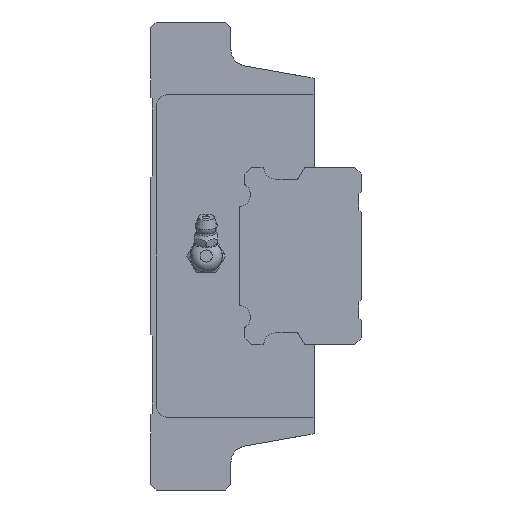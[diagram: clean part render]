
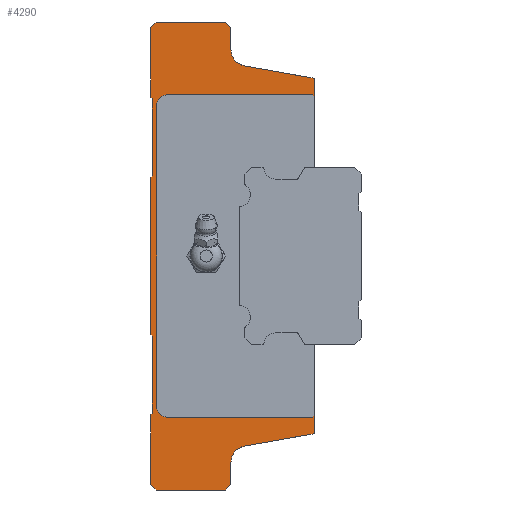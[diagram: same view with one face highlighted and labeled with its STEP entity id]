
A CAD part, left-side view. The second image highlights one B-rep face of the part: STEP entity #4290.
In plain terms, the highlighted planar face has unit normal (-1, 0, 0).
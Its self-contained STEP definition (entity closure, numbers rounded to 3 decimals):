
#200=CIRCLE('',#4608,4.);
#203=CIRCLE('',#4623,5.);
#221=CIRCLE('',#4650,5.);
#222=CIRCLE('',#4653,4.);
#264=CIRCLE('',#4722,3.);
#265=CIRCLE('',#4723,3.);
#1101=ORIENTED_EDGE('',*,*,#2045,.F.);
#1102=ORIENTED_EDGE('',*,*,#1880,.F.);
#1103=ORIENTED_EDGE('',*,*,#1876,.F.);
#1104=ORIENTED_EDGE('',*,*,#1988,.F.);
#1105=ORIENTED_EDGE('',*,*,#1873,.T.);
#1106=ORIENTED_EDGE('',*,*,#1792,.F.);
#1107=ORIENTED_EDGE('',*,*,#1789,.F.);
#1108=ORIENTED_EDGE('',*,*,#1979,.F.);
#1109=ORIENTED_EDGE('',*,*,#1967,.F.);
#1110=ORIENTED_EDGE('',*,*,#2036,.F.);
#1111=ORIENTED_EDGE('',*,*,#2033,.F.);
#1112=ORIENTED_EDGE('',*,*,#2030,.F.);
#1113=ORIENTED_EDGE('',*,*,#2027,.F.);
#1114=ORIENTED_EDGE('',*,*,#2024,.F.);
#1115=ORIENTED_EDGE('',*,*,#2021,.F.);
#1116=ORIENTED_EDGE('',*,*,#2018,.F.);
#1117=ORIENTED_EDGE('',*,*,#2015,.F.);
#1118=ORIENTED_EDGE('',*,*,#2012,.F.);
#1119=ORIENTED_EDGE('',*,*,#2009,.F.);
#1120=ORIENTED_EDGE('',*,*,#2002,.F.);
#1121=ORIENTED_EDGE('',*,*,#1768,.F.);
#1122=ORIENTED_EDGE('',*,*,#1765,.F.);
#1123=ORIENTED_EDGE('',*,*,#1848,.T.);
#1124=ORIENTED_EDGE('',*,*,#1838,.F.);
#1125=ORIENTED_EDGE('',*,*,#1823,.F.);
#1126=ORIENTED_EDGE('',*,*,#1896,.F.);
#1127=ORIENTED_EDGE('',*,*,#2046,.F.);
#1128=ORIENTED_EDGE('',*,*,#2047,.F.);
#1129=ORIENTED_EDGE('',*,*,#2048,.F.);
#1130=ORIENTED_EDGE('',*,*,#2049,.F.);
#1131=ORIENTED_EDGE('',*,*,#2050,.F.);
#1132=ORIENTED_EDGE('',*,*,#2051,.F.);
#1765=EDGE_CURVE('',#2325,#2323,#2730,.T.);
#1768=EDGE_CURVE('',#2323,#2327,#2733,.T.);
#1789=EDGE_CURVE('',#2347,#2345,#2746,.T.);
#1792=EDGE_CURVE('',#2345,#2349,#2749,.T.);
#1823=EDGE_CURVE('',#2367,#2368,#200,.T.);
#1838=EDGE_CURVE('',#2368,#2382,#2771,.T.);
#1848=EDGE_CURVE('',#2325,#2382,#203,.T.);
#1873=EDGE_CURVE('',#2407,#2349,#221,.T.);
#1876=EDGE_CURVE('',#2408,#2409,#222,.T.);
#1880=EDGE_CURVE('',#2409,#2412,#2780,.T.);
#1896=EDGE_CURVE('',#2423,#2367,#2793,.T.);
#1967=EDGE_CURVE('',#2490,#2491,#2830,.T.);
#1979=EDGE_CURVE('',#2491,#2347,#2842,.T.);
#1988=EDGE_CURVE('',#2407,#2408,#2851,.T.);
#2002=EDGE_CURVE('',#2327,#2512,#2864,.T.);
#2009=EDGE_CURVE('',#2512,#2516,#2871,.T.);
#2012=EDGE_CURVE('',#2516,#2518,#2874,.T.);
#2015=EDGE_CURVE('',#2518,#2520,#2877,.T.);
#2018=EDGE_CURVE('',#2520,#2522,#2880,.T.);
#2021=EDGE_CURVE('',#2522,#2524,#2883,.T.);
#2024=EDGE_CURVE('',#2524,#2526,#2886,.T.);
#2027=EDGE_CURVE('',#2526,#2528,#2889,.T.);
#2030=EDGE_CURVE('',#2528,#2530,#2892,.T.);
#2033=EDGE_CURVE('',#2530,#2532,#2895,.T.);
#2036=EDGE_CURVE('',#2532,#2490,#2898,.T.);
#2045=EDGE_CURVE('',#2412,#2540,#2905,.T.);
#2046=EDGE_CURVE('',#2541,#2423,#2906,.T.);
#2047=EDGE_CURVE('',#2542,#2541,#2907,.T.);
#2048=EDGE_CURVE('',#2543,#2542,#264,.F.);
#2049=EDGE_CURVE('',#2544,#2543,#2908,.T.);
#2050=EDGE_CURVE('',#2545,#2544,#265,.F.);
#2051=EDGE_CURVE('',#2540,#2545,#2909,.T.);
#2323=VERTEX_POINT('',#6522);
#2325=VERTEX_POINT('',#6526);
#2327=VERTEX_POINT('',#6531);
#2345=VERTEX_POINT('',#6585);
#2347=VERTEX_POINT('',#6589);
#2349=VERTEX_POINT('',#6594);
#2367=VERTEX_POINT('',#6669);
#2368=VERTEX_POINT('',#6671);
#2382=VERTEX_POINT('',#6719);
#2407=VERTEX_POINT('',#6809);
#2408=VERTEX_POINT('',#6814);
#2409=VERTEX_POINT('',#6816);
#2412=VERTEX_POINT('',#6825);
#2423=VERTEX_POINT('',#6852);
#2490=VERTEX_POINT('',#6994);
#2491=VERTEX_POINT('',#6995);
#2512=VERTEX_POINT('',#7059);
#2516=VERTEX_POINT('',#7071);
#2518=VERTEX_POINT('',#7077);
#2520=VERTEX_POINT('',#7083);
#2522=VERTEX_POINT('',#7089);
#2524=VERTEX_POINT('',#7095);
#2526=VERTEX_POINT('',#7101);
#2528=VERTEX_POINT('',#7107);
#2530=VERTEX_POINT('',#7113);
#2532=VERTEX_POINT('',#7119);
#2540=VERTEX_POINT('',#7142);
#2541=VERTEX_POINT('',#7144);
#2542=VERTEX_POINT('',#7146);
#2543=VERTEX_POINT('',#7148);
#2544=VERTEX_POINT('',#7150);
#2545=VERTEX_POINT('',#7152);
#2730=LINE('',#6527,#3090);
#2733=LINE('',#6533,#3093);
#2746=LINE('',#6590,#3106);
#2749=LINE('',#6596,#3109);
#2771=LINE('',#6718,#3131);
#2780=LINE('',#6824,#3140);
#2793=LINE('',#6853,#3153);
#2830=LINE('',#6993,#3190);
#2842=LINE('',#7016,#3202);
#2851=LINE('',#7032,#3211);
#2864=LINE('',#7058,#3224);
#2871=LINE('',#7070,#3231);
#2874=LINE('',#7076,#3234);
#2877=LINE('',#7082,#3237);
#2880=LINE('',#7088,#3240);
#2883=LINE('',#7094,#3243);
#2886=LINE('',#7100,#3246);
#2889=LINE('',#7106,#3249);
#2892=LINE('',#7112,#3252);
#2895=LINE('',#7118,#3255);
#2898=LINE('',#7124,#3258);
#2905=LINE('',#7141,#3265);
#2906=LINE('',#7143,#3266);
#2907=LINE('',#7145,#3267);
#2908=LINE('',#7149,#3268);
#2909=LINE('',#7153,#3269);
#3090=VECTOR('',#5262,1000.);
#3093=VECTOR('',#5267,1000.);
#3106=VECTOR('',#5296,1000.);
#3109=VECTOR('',#5301,1000.);
#3131=VECTOR('',#5379,1000.);
#3140=VECTOR('',#5474,1000.);
#3153=VECTOR('',#5495,1000.);
#3190=VECTOR('',#5606,1000.);
#3202=VECTOR('',#5620,1000.);
#3211=VECTOR('',#5635,1000.);
#3224=VECTOR('',#5658,1000.);
#3231=VECTOR('',#5667,1000.);
#3234=VECTOR('',#5672,1000.);
#3237=VECTOR('',#5677,1000.);
#3240=VECTOR('',#5682,1000.);
#3243=VECTOR('',#5687,1000.);
#3246=VECTOR('',#5692,1000.);
#3249=VECTOR('',#5697,1000.);
#3252=VECTOR('',#5702,1000.);
#3255=VECTOR('',#5707,1000.);
#3258=VECTOR('',#5712,1000.);
#3265=VECTOR('',#5727,1000.);
#3266=VECTOR('',#5728,1000.);
#3267=VECTOR('',#5729,1000.);
#3268=VECTOR('',#5732,1000.);
#3269=VECTOR('',#5735,1000.);
#3515=EDGE_LOOP('',(#1101,#1102,#1103,#1104,#1105,#1106,#1107,#1108,#1109,
#1110,#1111,#1112,#1113,#1114,#1115,#1116,#1117,#1118,#1119,#1120,#1121,
#1122,#1123,#1124,#1125,#1126,#1127,#1128,#1129,#1130,#1131,#1132));
#3856=FACE_BOUND('',#3515,.T.);
#4097=PLANE('',#4721);
#4290=ADVANCED_FACE('',(#3856),#4097,.F.);
#4608=AXIS2_PLACEMENT_3D('',#6670,#5358,#5359);
#4623=AXIS2_PLACEMENT_3D('',#6740,#5399,#5400);
#4650=AXIS2_PLACEMENT_3D('',#6808,#5455,#5456);
#4653=AXIS2_PLACEMENT_3D('',#6815,#5463,#5464);
#4721=AXIS2_PLACEMENT_3D('',#7140,#5725,#5726);
#4722=AXIS2_PLACEMENT_3D('',#7147,#5730,#5731);
#4723=AXIS2_PLACEMENT_3D('',#7151,#5733,#5734);
#5262=DIRECTION('',(0.,0.,-1.));
#5267=DIRECTION('',(0.,0.707,-0.707));
#5296=DIRECTION('',(0.,-0.707,-0.707));
#5301=DIRECTION('',(0.,0.,-1.));
#5358=DIRECTION('',(1.,0.,0.));
#5359=DIRECTION('',(0.,0.,-1.));
#5379=DIRECTION('',(0.,0.984,-0.176));
#5399=DIRECTION('',(1.,0.,0.));
#5400=DIRECTION('',(0.,0.,-1.));
#5455=DIRECTION('',(1.,0.,0.));
#5456=DIRECTION('',(0.,0.,-1.));
#5463=DIRECTION('',(1.,0.,0.));
#5464=DIRECTION('',(0.,0.,-1.));
#5474=DIRECTION('',(0.,0.,-1.));
#5495=DIRECTION('',(0.,0.,-1.));
#5606=DIRECTION('',(0.,-0.707,0.707));
#5620=DIRECTION('',(0.,-1.,0.));
#5635=DIRECTION('',(0.,-0.984,-0.176));
#5658=DIRECTION('',(0.,1.,0.));
#5667=DIRECTION('',(0.,0.707,0.707));
#5672=DIRECTION('',(0.,0.,1.));
#5677=DIRECTION('',(0.,-0.707,0.707));
#5682=DIRECTION('',(0.,0.,1.));
#5687=DIRECTION('',(0.,0.707,0.707));
#5692=DIRECTION('',(0.,0.,1.));
#5697=DIRECTION('',(0.,-0.707,0.707));
#5702=DIRECTION('',(0.,0.,1.));
#5707=DIRECTION('',(0.,0.707,0.707));
#5712=DIRECTION('',(0.,0.,1.));
#5725=DIRECTION('',(1.,0.,0.));
#5726=DIRECTION('',(0.,0.,-1.));
#5727=DIRECTION('',(0.,0.707,0.707));
#5728=DIRECTION('',(0.,-0.707,0.707));
#5729=DIRECTION('',(0.,-1.,0.));
#5730=DIRECTION('',(1.,0.,0.));
#5731=DIRECTION('',(0.,0.,-1.));
#5732=DIRECTION('',(0.,0.,-1.));
#5733=DIRECTION('',(1.,0.,0.));
#5734=DIRECTION('',(0.,0.,-1.));
#5735=DIRECTION('',(0.,1.,0.));
#6522=CARTESIAN_POINT('',(-80.4,25.,-68.5));
#6526=CARTESIAN_POINT('',(-80.4,25.,-61.8));
#6527=CARTESIAN_POINT('',(-80.4,25.,-61.8));
#6531=CARTESIAN_POINT('',(-80.4,26.5,-70.));
#6533=CARTESIAN_POINT('',(-80.4,25.,-68.5));
#6585=CARTESIAN_POINT('',(-80.4,25.,68.5));
#6589=CARTESIAN_POINT('',(-80.4,26.5,70.));
#6590=CARTESIAN_POINT('',(-80.4,26.5,70.));
#6594=CARTESIAN_POINT('',(-80.4,25.,61.8));
#6596=CARTESIAN_POINT('',(-80.4,25.,68.5));
#6669=CARTESIAN_POINT('',(-80.4,0.,-52.972));
#6670=CARTESIAN_POINT('',(-80.4,1.8,-49.4));
#6671=CARTESIAN_POINT('',(-80.4,1.095,-53.337));
#6718=CARTESIAN_POINT('',(-80.4,1.095,-53.337));
#6719=CARTESIAN_POINT('',(-80.4,20.881,-56.878));
#6740=CARTESIAN_POINT('',(-80.4,20.,-61.8));
#6808=CARTESIAN_POINT('',(-80.4,20.,61.8));
#6809=CARTESIAN_POINT('',(-80.4,20.881,56.878));
#6814=CARTESIAN_POINT('',(-80.4,1.095,53.337));
#6815=CARTESIAN_POINT('',(-80.4,1.8,49.4));
#6816=CARTESIAN_POINT('',(-80.4,0.,52.972));
#6824=CARTESIAN_POINT('',(-80.4,0.,52.972));
#6825=CARTESIAN_POINT('',(-80.4,0.,47.7));
#6852=CARTESIAN_POINT('',(-80.4,0.,-47.7));
#6853=CARTESIAN_POINT('',(-80.4,0.,52.972));
#6993=CARTESIAN_POINT('',(-80.4,49.,68.4));
#6994=CARTESIAN_POINT('',(-80.4,49.,68.4));
#6995=CARTESIAN_POINT('',(-80.4,47.4,70.));
#7016=CARTESIAN_POINT('',(-80.4,47.4,70.));
#7032=CARTESIAN_POINT('',(-80.4,20.881,56.878));
#7058=CARTESIAN_POINT('',(-80.4,26.5,-70.));
#7059=CARTESIAN_POINT('',(-80.4,47.4,-70.));
#7070=CARTESIAN_POINT('',(-80.4,47.4,-70.));
#7071=CARTESIAN_POINT('',(-80.4,49.,-68.4));
#7076=CARTESIAN_POINT('',(-80.4,49.,-68.4));
#7077=CARTESIAN_POINT('',(-80.4,49.,-47.5));
#7082=CARTESIAN_POINT('',(-80.4,49.,-47.5));
#7083=CARTESIAN_POINT('',(-80.4,48.5,-47.));
#7088=CARTESIAN_POINT('',(-80.4,48.5,-47.));
#7089=CARTESIAN_POINT('',(-80.4,48.5,-24.));
#7094=CARTESIAN_POINT('',(-80.4,48.5,-24.));
#7095=CARTESIAN_POINT('',(-80.4,49.,-23.5));
#7100=CARTESIAN_POINT('',(-80.4,49.,-23.5));
#7101=CARTESIAN_POINT('',(-80.4,49.,23.5));
#7106=CARTESIAN_POINT('',(-80.4,49.,23.5));
#7107=CARTESIAN_POINT('',(-80.4,48.5,24.));
#7112=CARTESIAN_POINT('',(-80.4,48.5,24.));
#7113=CARTESIAN_POINT('',(-80.4,48.5,47.));
#7118=CARTESIAN_POINT('',(-80.4,48.5,47.));
#7119=CARTESIAN_POINT('',(-80.4,49.,47.5));
#7124=CARTESIAN_POINT('',(-80.4,49.,47.5));
#7140=CARTESIAN_POINT('',(-80.4,20.,61.8));
#7141=CARTESIAN_POINT('',(-80.4,17.05,64.75));
#7142=CARTESIAN_POINT('',(-80.4,0.5,48.2));
#7143=CARTESIAN_POINT('',(-80.4,-44.75,-2.95));
#7144=CARTESIAN_POINT('',(-80.4,0.5,-48.2));
#7145=CARTESIAN_POINT('',(-80.4,20.,-48.2));
#7146=CARTESIAN_POINT('',(-80.4,44.2,-48.2));
#7147=CARTESIAN_POINT('',(-80.4,44.2,-45.2));
#7148=CARTESIAN_POINT('',(-80.4,47.2,-45.2));
#7149=CARTESIAN_POINT('',(-80.4,47.2,61.8));
#7150=CARTESIAN_POINT('',(-80.4,47.2,45.2));
#7151=CARTESIAN_POINT('',(-80.4,44.2,45.2));
#7152=CARTESIAN_POINT('',(-80.4,44.2,48.2));
#7153=CARTESIAN_POINT('',(-80.4,20.,48.2));
